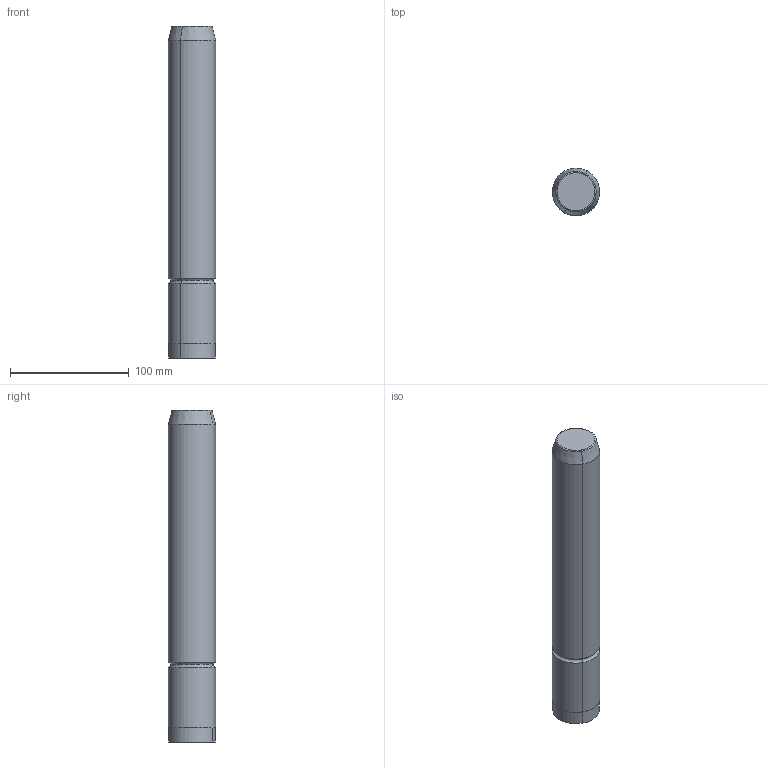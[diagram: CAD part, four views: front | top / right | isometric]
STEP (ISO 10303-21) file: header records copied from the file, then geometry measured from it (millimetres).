
FILE_DESCRIPTION(('CATIA V5 STEP Exchange'),'2;1');
FILE_NAME('C:\Users\Utente\Desktop\IO LAVORO\3D X SITO CF\X SITO\M104\M104-40x280.stp','2020-12-26T21:26:48+00:00',('none'),('none'),'CATIA Version 5 Release 20 GA (IN-10)','CATIA V5 STEP AP203','none');
FILE_SCHEMA(('CONFIG_CONTROL_DESIGN'));
Length unit declared in the file: millimetre
Products named in the file (1): M104-40x280
Bounding box: 39.99 x 39.99 x 280 mm (x, y, z)
Volume: 347975.9 mm3; surface area: 37439.3 mm2
Topology: 1 solids, 1 shells, 17 faces, 32 edges, 18 vertices
Faces by surface type: cylinder 6, torus 6, plane 3, cone 2
Entity records: 438 total; most frequent: CARTESIAN_POINT 66, ORIENTED_EDGE 64, DIRECTION 62, AXIS2_PLACEMENT_3D 40, EDGE_CURVE 32, CIRCLE 24, EDGE_LOOP 18, VERTEX_POINT 18
